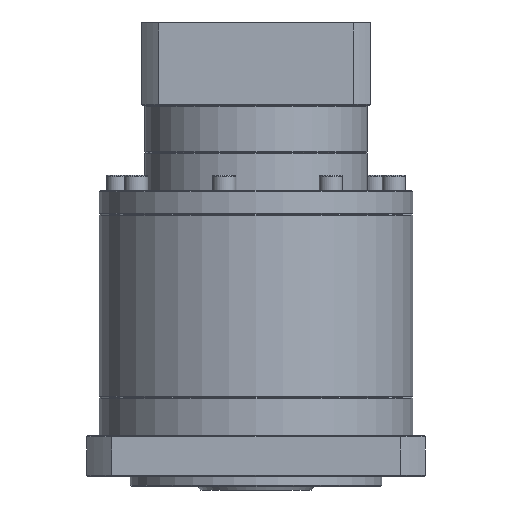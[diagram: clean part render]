
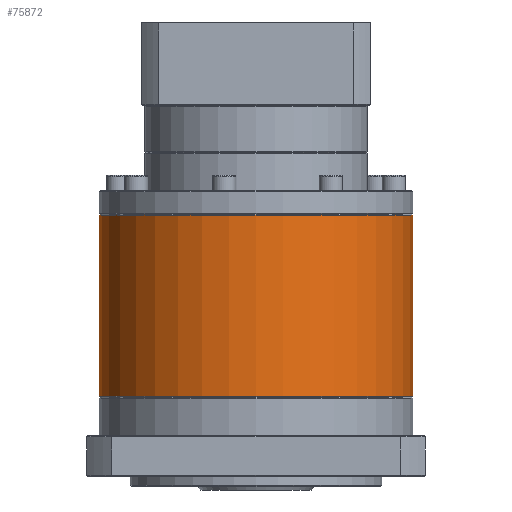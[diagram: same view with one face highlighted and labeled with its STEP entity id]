
A CAD part, front view. The second image highlights one B-rep face of the part: STEP entity #75872.
In plain terms, the highlighted cylindrical face has radius 81 mm (diameter 162 mm), a partial arc.
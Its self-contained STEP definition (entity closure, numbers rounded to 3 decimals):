
#1394 = CIRCLE ( 'NONE', #59650, 81. ) ;
#1869 = CARTESIAN_POINT ( 'NONE',  ( -46.59, 63.63, -134.07 ) ) ;
#7210 = EDGE_CURVE ( 'NONE', #62568, #45633, #7999, .T. ) ;
#7999 = LINE ( 'NONE', #83889, #41939 ) ;
#8209 = ORIENTED_EDGE ( 'NONE', *, *, #7210, .T. ) ;
#9955 = DIRECTION ( 'NONE',  ( 0., 0., 1. ) ) ;
#14337 = ORIENTED_EDGE ( 'NONE', *, *, #88180, .T. ) ;
#14766 = EDGE_CURVE ( 'NONE', #37568, #62568, #1394, .T. ) ;
#15070 = DIRECTION ( 'NONE',  ( 0., 0., -1. ) ) ;
#23533 = DIRECTION ( 'NONE',  ( 0., 0., -1. ) ) ;
#24757 = CYLINDRICAL_SURFACE ( 'NONE', #69203, 81. ) ;
#29963 = CARTESIAN_POINT ( 'NONE',  ( -127.59, 63.63, -40.57 ) ) ;
#30942 = ORIENTED_EDGE ( 'NONE', *, *, #14766, .T. ) ;
#36251 = CARTESIAN_POINT ( 'NONE',  ( -208.59, 63.63, -134.07 ) ) ;
#37291 = CARTESIAN_POINT ( 'NONE',  ( -46.59, 63.63, -40.57 ) ) ;
#37568 = VERTEX_POINT ( 'NONE', #37291 ) ;
#39566 = ORIENTED_EDGE ( 'NONE', *, *, #46975, .F. ) ;
#39838 = CARTESIAN_POINT ( 'NONE',  ( -208.59, 63.63, -40.57 ) ) ;
#41939 = VECTOR ( 'NONE', #92041, 1000. ) ;
#45633 = VERTEX_POINT ( 'NONE', #36251 ) ;
#46546 = DIRECTION ( 'NONE',  ( -1., 0., 0. ) ) ;
#46975 = EDGE_CURVE ( 'NONE', #37568, #97578, #64755, .T. ) ;
#50478 = EDGE_LOOP ( 'NONE', ( #39566, #30942, #8209, #14337 ) ) ;
#53072 = CARTESIAN_POINT ( 'NONE',  ( -127.59, 63.63, -40.07 ) ) ;
#54296 = CARTESIAN_POINT ( 'NONE',  ( -127.59, 63.63, -134.07 ) ) ;
#54998 = CIRCLE ( 'NONE', #92530, 81. ) ;
#59650 = AXIS2_PLACEMENT_3D ( 'NONE', #29963, #15070, #91915 ) ;
#60557 = DIRECTION ( 'NONE',  ( 0., 0., -1. ) ) ;
#60907 = DIRECTION ( 'NONE',  ( -1., 0., 0. ) ) ;
#62568 = VERTEX_POINT ( 'NONE', #39838 ) ;
#64755 = LINE ( 'NONE', #99027, #67174 ) ;
#67174 = VECTOR ( 'NONE', #23533, 1000. ) ;
#69203 = AXIS2_PLACEMENT_3D ( 'NONE', #53072, #60557, #60907 ) ;
#75872 = ADVANCED_FACE ( 'NONE', ( #96284 ), #24757, .T. ) ;
#83889 = CARTESIAN_POINT ( 'NONE',  ( -208.59, 63.63, -40.07 ) ) ;
#88180 = EDGE_CURVE ( 'NONE', #45633, #97578, #54998, .T. ) ;
#91915 = DIRECTION ( 'NONE',  ( -1., 0., 0. ) ) ;
#92041 = DIRECTION ( 'NONE',  ( 0., 0., -1. ) ) ;
#92530 = AXIS2_PLACEMENT_3D ( 'NONE', #54296, #9955, #46546 ) ;
#96284 = FACE_OUTER_BOUND ( 'NONE', #50478, .T. ) ;
#97578 = VERTEX_POINT ( 'NONE', #1869 ) ;
#99027 = CARTESIAN_POINT ( 'NONE',  ( -46.59, 63.63, -40.07 ) ) ;
